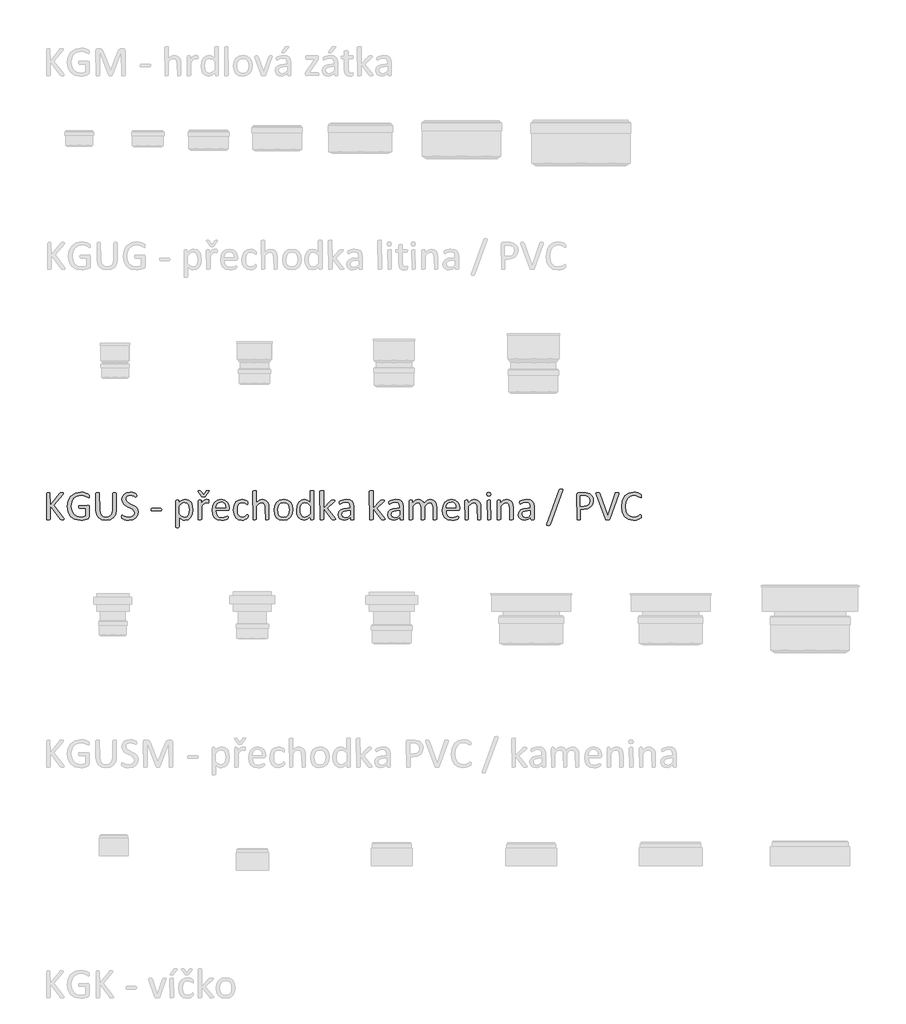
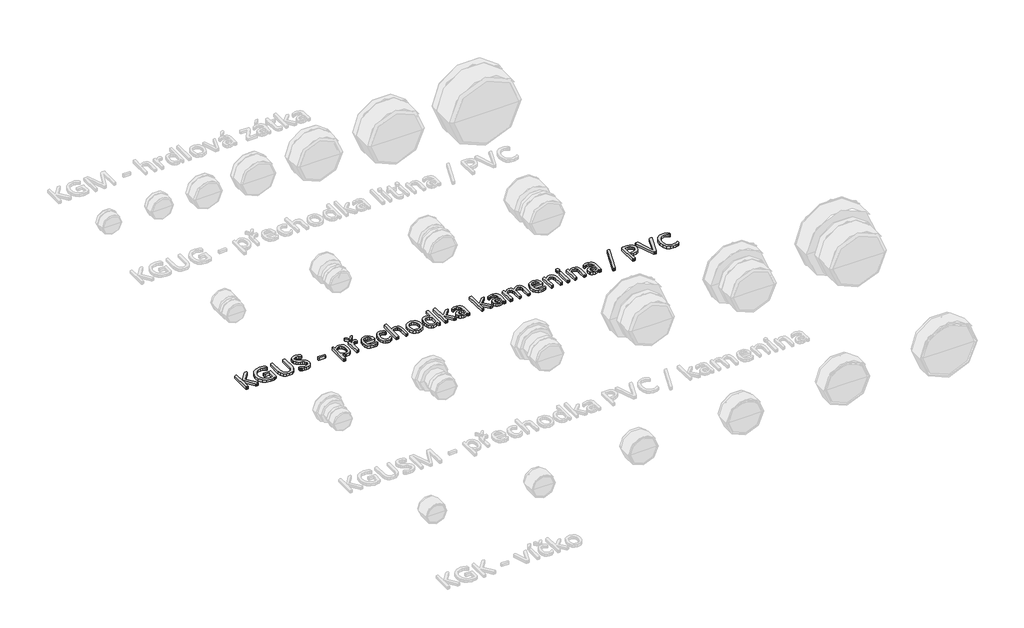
# One storey, part 4 of 11: 1 proxy.
"""IFC4 building model written with IfcOpenShell, lengths in millimetres."""

from ifc_helpers import new_model, si_unit, origin, origin_with_axes, place, context, project, spatial, polyline, outline, extrude, element, save

model = new_model("IFC4")

# Units and contexts
model_context = context("Model", 3, world=origin())
ifc_project = project(units=[si_unit("LENGTHUNIT", "METRE", prefix="MILLI")], contexts=[model_context])

# Site, building, storey
site = spatial("IfcSite", under=ifc_project)
building = spatial("IfcBuilding", under=site)
storey = spatial("IfcBuildingStorey", under=building, Name="Podlaží 1", Elevation=0.0)

# Proxy
placement = place(None, origin())
element("IfcBuildingElementProxy", 1, Name="120mm Arial", ObjectType="120mm Arial", at=placement, inside=storey, context=model_context, shape_type="SweptSolid", body=[
    extrude(outline(polyline([(-20477.3940185, 4443.2228429), (-20478.8234835, 4440.2010624), (-20481.3386182, 4439.6039441), (-20485.4098794, 4439.3687156), (-20490.6934717, 4439.640133), (-20493.7514412, 4440.6534247), (-20495.4342292, 4442.3362127), (-20539.5486061, 4501.9756656), (-20539.5486061, 4442.3362127), (-20541.2494886, 4440.1648734), (-20543.7465288, 4439.6039441), (-20547.6549395, 4439.3687156), (-20551.5271613, 4439.6039441), (-20554.0603905, 4440.1648734), (-20555.3812885, 4441.0876926), (-20555.3812885, 4556.8381721), (-20551.5271613, 4559.5704407), (-20547.6549395, 4559.8056691), (-20543.7465288, 4559.5704407), (-20541.2494886, 4559.0095114), (-20539.5486061, 4503.821304), (-20497.0989227, 4556.8381721), (-20495.7780246, 4558.2314482), (-20493.9866697, 4559.1180784), (-20491.399157, 4559.6247242), (-20487.4364628, 4559.8056691), (-20483.564241, 4559.5704407), (-20481.1938622, 4558.9733224), (-20480.2529486, 4554.4496989), (-20482.5509493, 4551.1203119), (-20522.3226476, 4503.821304), (-20479.4748853, 4447.2217261), (-20477.3940185, 4443.2228429)])), origin_with_axes(), (0.0, 0.0, 1.0), 15.0),
    extrude(outline(polyline([(-20365.8414616, 4544.0272702), (-20366.0224065, 4540.7521667), (-20366.5833359, 4538.381788), (-20367.5242496, 4537.0427954), (-20372.4278575, 4538.454166), (-20379.4123323, 4542.4349547), (-20389.8709499, 4546.4157434), (-20404.3103563, 4548.2251928), (-20422.1696221, 4544.5520105), (-20435.5595478, 4534.3829048), (-20443.9734876, 4518.9483012), (-20446.9047957, 4499.5510034), (-20443.7020702, 4478.814713), (-20434.8176736, 4463.5610544), (-20421.2648974, 4454.1519174), (-20404.0208444, 4450.9491919), (-20392.693691, 4452.27009), (-20382.0541284, 4456.1965953), (-20382.0541284, 4490.3228113), (-20409.0873028, 4490.3228113), (-20411.403398, 4492.0055993), (-20412.1633668, 4497.2349081), (-20411.9824219, 4500.4195391), (-20411.3853036, 4502.5908784), (-20371.4145658, 4504.2193829), (-20369.406077, 4503.857493), (-20367.578533, 4502.7537289), (-20366.293824, 4500.709051), (-20365.8414616, 4497.741554), (-20365.8414616, 4452.1434285), (-20366.6738083, 4447.9636004), (-20370.2022347, 4444.8694419), (-20377.1505205, 4441.9562283), (-20385.9444447, 4439.2782432), (-20395.1183533, 4437.6135497), (-20404.2741673, 4437.0526204), (-20429.1179079, 4441.431488), (-20447.610481, 4453.8985945), (-20459.1366738, 4473.2597033), (-20463.1174625, 4498.4653337), (-20458.8290674, 4524.7023504), (-20446.7238508, 4544.7329555), (-20427.9598603, 4557.5619519), (-20403.7313325, 4562.1217644), (-20390.8842416, 4560.9456223), (-20380.20849, 4558.1952592), (-20372.3554795, 4554.7573053), (-20367.9766119, 4551.7174302), (-20366.3119185, 4548.8585001), (-20365.8414616, 4544.0272702)])), origin_with_axes(), (0.0, 0.0, 1.0), 15.0),
    extrude(outline(polyline([(-20245.4045081, 4483.3021476), (-20248.6072336, 4463.7239048), (-20257.7268586, 4449.157837), (-20272.166265, 4440.1286844), (-20291.5454683, 4437.0526204), (-20309.6037736, 4439.9296449), (-20323.5908176, 4448.4521517), (-20332.5837812, 4462.5658572), (-20335.7322232, 4482.107911), (-20335.7322232, 4556.8381721), (-20334.0313408, 4559.0095114), (-20331.5704896, 4559.5704407), (-20327.5897008, 4559.8056691), (-20323.6993846, 4559.5704407), (-20321.1842499, 4559.0095114), (-20319.5195564, 4484.2068723), (-20317.5110675, 4469.62271), (-20311.7027349, 4459.2545648), (-20302.5469208, 4453.0300588), (-20290.5321767, 4450.9491919), (-20278.3002986, 4452.9938698), (-20269.2530515, 4459.1279033), (-20263.5894748, 4469.2427256), (-20261.6171749, 4483.3745256), (-20261.6171749, 4556.8381721), (-20259.9162924, 4559.0095114), (-20257.4011578, 4559.5704407), (-20253.4746525, 4559.8056691), (-20249.6205252, 4559.5704407), (-20247.159674, 4559.0095114), (-20245.8387759, 4558.1228812), (-20245.4045081, 4483.3021476)])), origin_with_axes(), (0.0, 0.0, 1.0), 15.0),
    extrude(outline(polyline([(-20148.1285072, 4472.9159079), (-20151.2407602, 4457.7165328), (-20159.9080229, 4446.4074739), (-20172.9541532, 4439.4049046), (-20189.0944421, 4437.0526204), (-20200.3130285, 4437.9573451), (-20209.5412205, 4440.1829679), (-20216.3447504, 4442.9152365), (-20220.1626886, 4445.3218042), (-20221.7369096, 4448.1083563), (-20222.2435555, 4452.8672083), (-20222.0626105, 4456.3956347), (-20221.5016812, 4458.6574465), (-20215.5304981, 4458.7660134), (-20209.3602756, 4455.6175714), (-20200.294934, 4452.4329405), (-20188.0449614, 4450.9491919), (-20178.400596, 4452.3605625), (-20170.8913809, 4456.3413512), (-20166.0420564, 4462.6382352), (-20164.341174, 4471.1426475), (-20166.7296472, 4479.9727607), (-20173.0084367, 4486.3963061), (-20181.8928334, 4491.4627645), (-20192.1343171, 4496.167333), (-20202.3215173, 4501.4690198), (-20211.169725, 4508.3087386), (-20217.502798, 4517.5731196), (-20219.9274602, 4530.2754546), (-20217.1590026, 4543.8644197), (-20209.4688426, 4553.8525806), (-20197.7436103, 4560.0047086), (-20183.050881, 4562.1217644), (-20174.9264531, 4561.3437012), (-20167.2362931, 4559.2809288), (-20160.7946531, 4556.4039042), (-20157.0852818, 4553.8344861), (-20155.9272342, 4552.332643), (-20155.1672654, 4549.0213506), (-20155.0767929, 4546.0538535), (-20155.2215489, 4542.9777895), (-20155.6377223, 4540.7340722), (-20160.8670311, 4540.3721824), (-20166.2953794, 4543.5387188), (-20173.8950669, 4546.7595388), (-20183.7384718, 4548.2251928), (-20192.5866795, 4546.9042948), (-20198.8111855, 4543.3939629), (-20202.4843678, 4538.1827486), (-20203.7147934, 4531.7953921), (-20201.3625092, 4523.0738459), (-20195.0837197, 4516.596017), (-20186.163134, 4511.4209916), (-20175.9759338, 4506.6802341), (-20165.770639, 4501.4147363), (-20156.8500534, 4494.6473955), (-20150.5350749, 4485.4553924), (-20148.1285072, 4472.9159079)])), origin_with_axes(), (0.0, 0.0, 1.0), 15.0),
    extrude(outline(polyline([(-20043.9042205, 4484.5687622), (-20044.7546617, 4480.0089496), (-20047.2336074, 4478.742335), (-20086.8243608, 4478.742335), (-20089.3756844, 4480.0451386), (-20090.2261257, 4484.5687622), (-20089.3756844, 4489.0561968), (-20086.8243608, 4490.3228113), (-20047.2336074, 4490.3228113), (-20044.1394489, 4487.2829363), (-20043.9042205, 4484.5687622)])), origin_with_axes(), (0.0, 0.0, 1.0), 15.0),
    extrude(outline(polyline([(-19904.9385049, 4484.6411402), (-19907.2546001, 4464.79148), (-19914.0581299, 4449.8454278), (-19925.1862439, 4440.3820073), (-19940.3675245, 4437.0526204), (-19947.0805819, 4437.7944946), (-19953.124143, 4440.1467789), (-19958.9867591, 4444.1818511), (-19965.1569816, 4449.8997113), (-19965.1569816, 4407.6309728), (-19966.8397696, 4405.369161), (-19969.2825263, 4404.8082317), (-19973.299504, 4404.6272867), (-19977.2441038, 4404.8082317), (-19979.741144, 4405.369161), (-19981.0258531, 4406.3100747), (-19981.0258531, 4524.4852164), (-19977.6421826, 4527.2355796), (-19974.2766067, 4527.3803355), (-19970.8929363, 4527.253674), (-19968.685408, 4526.7832172), (-19967.111187, 4514.1351657), (-19959.9276728, 4520.9748846), (-19952.9612925, 4525.8061145), (-19945.7596838, 4528.7193281), (-19937.9790513, 4529.6964308), (-19922.7796762, 4526.1318154), (-19912.5381924, 4516.3969775), (-19906.7660488, 4502.0299491), (-19904.9385049, 4484.6411402)]), holes=[polyline([(-19921.1511717, 4482.8678797), (-19922.0920854, 4495.1359468), (-19925.3309998, 4505.6669424), (-19931.5012224, 4513.0314016), (-19941.1274933, 4515.7998592), (-19946.8091645, 4514.949418), (-19952.4727412, 4512.2352438), (-19958.4982078, 4507.3497304), (-19965.1569816, 4499.9128933), (-19965.1569816, 4466.365701), (-19953.5584108, 4454.9118862), (-19942.032218, 4450.9491919), (-19932.4421361, 4453.7176495), (-19925.9643071, 4461.0821087), (-19922.3273138, 4471.3778759), (-19921.1511717, 4482.8678797)])]), origin_with_axes(), (0.0, 0.0, 1.0), 15.0),
    extrude(outline(polyline([(-19845.8780757, 4566.392065), (-19844.7200281, 4567.6767741), (-19841.4268302, 4568.9433887), (-19838.5317111, 4569.0700502), (-19834.7499618, 4568.7624438), (-19832.9405124, 4567.8758136), (-19834.2975994, 4564.0759698), (-19849.2436517, 4543.5930023), (-19850.4197938, 4542.4349547), (-19852.0121093, 4541.7654584), (-19854.3282045, 4541.4035685), (-19857.675686, 4541.2769071), (-19860.824128, 4541.4035685), (-19863.0497507, 4541.8016474), (-19864.5877828, 4542.5254272), (-19880.6195046, 4564.0759698), (-19882.0127807, 4566.3015926), (-19880.1128588, 4568.7624438), (-19876.349204, 4569.0700502), (-19873.236951, 4568.9433887), (-19871.3551236, 4568.4910264), (-19869.0390283, 4566.392065), (-19857.458552, 4550.2155872), (-19845.8780757, 4566.392065)])), origin_with_axes(), (0.0, 0.0, 1.0), 15.0),
    extrude(outline(polyline([(-19833.1395518, 4520.4320497), (-19833.2300243, 4517.1388518), (-19833.5919142, 4515.0037015), (-19837.138435, 4513.7913704), (-19839.4726248, 4514.6237171), (-19842.3858383, 4515.4198748), (-19845.8780757, 4515.7998592), (-19850.2931323, 4514.804662), (-19854.8348504, 4511.5476531), (-19859.8108363, 4505.540281), (-19865.5648854, 4496.3663724), (-19865.5648854, 4442.1914567), (-19869.6904301, 4439.5496606), (-19873.7074078, 4439.3687156), (-19877.6520076, 4439.5496606), (-19880.1490478, 4440.0924954), (-19881.7775523, 4524.5575944), (-19878.0500865, 4527.2355796), (-19874.3949986, 4527.3803355), (-19870.8122888, 4527.2355796), (-19868.6047605, 4526.6927447), (-19867.1210119, 4512.5428502), (-19860.8603169, 4521.1196405), (-19855.3053072, 4526.3489493), (-19850.1302819, 4528.972651), (-19844.937162, 4529.6964308), (-19842.2953659, 4529.5697693), (-19839.1831129, 4529.081218), (-19836.2518048, 4528.2669657), (-19834.4061664, 4527.3803355), (-19833.1757408, 4523.6890587), (-19833.1395518, 4520.4320497)])), origin_with_axes(), (0.0, 0.0, 1.0), 15.0),
    extrude(outline(polyline([(-19742.8118367, 4487.6810152), (-19744.6031916, 4482.5783678), (-19748.7106418, 4481.0584303), (-19803.0303134, 4481.0584303), (-19801.6732264, 4467.6685046), (-19797.1676973, 4457.4632098), (-19788.9527969, 4450.9130029), (-19776.5761629, 4448.6330967), (-19766.2984902, 4449.7006718), (-19758.4816687, 4452.1072396), (-19753.0714149, 4454.5138073), (-19749.8686894, 4455.5813824), (-19747.5706886, 4452.6862634), (-19747.4440272, 4450.0444672), (-19747.5344997, 4448.1083563), (-19751.9857452, 4442.7161971), (-19758.3369127, 4440.2191569), (-19767.3841598, 4438.0297231), (-19778.3494233, 4437.0526204), (-19796.0277442, 4439.9477394), (-19808.7843626, 4448.5607187), (-19816.6011841, 4462.9096526), (-19819.2429802, 4482.9402577), (-19816.4745226, 4502.4823115), (-19808.4948507, 4517.1750408), (-19795.9010827, 4526.4575163), (-19779.362715, 4529.6964308), (-19762.7157803, 4526.5660833), (-19751.4067214, 4518.134049), (-19744.8927035, 4505.7031314), (-19742.8118367, 4490.4675673), (-19742.8118367, 4487.6810152)]), holes=[polyline([(-19759.0245035, 4492.6389066), (-19760.196122, 4503.2648983), (-19764.2176233, 4511.3305191), (-19770.9894878, 4516.4195956), (-19780.4121956, 4518.1159545), (-19790.0565611, 4516.0169931), (-19796.9867524, 4510.4257944), (-19801.3113365, 4502.3013665), (-19803.0303134, 4492.6389066), (-19759.0245035, 4492.6389066)])]), origin_with_axes(), (0.0, 0.0, 1.0), 15.0),
    extrude(outline(polyline([(-19659.4324073, 4456.0156503), (-19659.5228798, 4453.4824211), (-19659.8485807, 4451.6729717), (-19661.838975, 4448.0359784), (-19665.7292913, 4444.507552), (-19671.8995138, 4440.7619917), (-19679.3363509, 4438.0840065), (-19687.6598183, 4437.0526204), (-19703.3658393, 4440.0563064), (-19714.8196541, 4448.8321361), (-19721.8584124, 4462.9820306), (-19724.2830746, 4482.3250449), (-19721.3155775, 4503.7670206), (-19713.1911496, 4518.4416554), (-19701.049744, 4526.9279732), (-19685.9227468, 4529.6964308), (-19678.2868703, 4528.8821785), (-19671.4833405, 4526.7470282), (-19665.9464252, 4523.7071532), (-19662.4360933, 4520.7577506), (-19660.9342503, 4518.8216397), (-19660.2466595, 4517.2836077), (-19659.8847697, 4515.3836858), (-19659.7942972, 4512.7237952), (-19660.6085494, 4507.9106597), (-19662.5808493, 4506.5354782), (-19665.7111968, 4507.9830377), (-19670.1805369, 4511.1676687), (-19676.7488383, 4514.3522997), (-19685.8141799, 4515.7998592), (-19695.3364075, 4513.7008979), (-19702.3344531, 4507.4040139), (-19706.6364191, 4497.1082467), (-19708.0704078, 4483.0126357), (-19706.5866592, 4469.0074972), (-19702.2077916, 4458.9469584), (-19695.0966554, 4452.9214918), (-19685.45229, 4450.9491919), (-19676.4231374, 4452.7767358), (-19669.6919855, 4456.7937136), (-19664.8969446, 4460.7564078), (-19661.8570695, 4462.5296682), (-19659.5590688, 4458.9650529), (-19659.4324073, 4456.0156503)])), origin_with_axes(), (0.0, 0.0, 1.0), 15.0),
    extrude(outline(polyline([(-19566.7885969, 4442.2276457), (-19570.9141416, 4439.5496606), (-19574.8587413, 4439.3687156), (-19578.875719, 4439.5496606), (-19581.3184758, 4440.0924954), (-19583.0012637, 4490.5761343), (-19584.0688389, 4501.9394766), (-19587.1629974, 4509.3763138), (-19592.4284952, 4514.1532602), (-19599.9015213, 4515.7998592), (-19610.8848793, 4511.764787), (-19622.3748831, 4499.9128933), (-19622.3748831, 4442.2276457), (-19626.5004278, 4439.5496606), (-19630.5174055, 4439.3687156), (-19634.4620053, 4439.5496606), (-19636.9590455, 4440.1105899), (-19638.58755, 4566.1025531), (-19634.4620053, 4568.8891052), (-19630.5174055, 4569.0700502), (-19626.5004278, 4568.8891052), (-19624.0576711, 4568.3281759), (-19622.772962, 4567.3872622), (-19622.3748831, 4516.0169931), (-19609.3468473, 4526.3308548), (-19596.1378665, 4529.6964308), (-19582.3136729, 4526.8736897), (-19573.2483313, 4519.3282856), (-19568.2904399, 4508.2725496), (-19566.7885969, 4492.9646075), (-19566.7885969, 4442.2276457)])), origin_with_axes(), (0.0, 0.0, 1.0), 15.0),
    extrude(outline(polyline([(-19460.2482149, 4484.2792503), (-19462.9262001, 4465.2981258), (-19470.942061, 4450.3520736), (-19484.2957978, 4440.5629522), (-19502.8788433, 4437.0526204), (-19520.7923926, 4440.1467789), (-19533.5309165, 4449.1397425), (-19541.1306041, 4463.4705819), (-19543.6276443, 4482.5783678), (-19540.9858481, 4501.5594923), (-19533.0242707, 4516.48745), (-19519.7248174, 4526.2222879), (-19501.1055829, 4529.6964308), (-19483.1739391, 4526.6022723), (-19470.4354152, 4517.6093086), (-19462.7995386, 4503.2784692), (-19460.2482149, 4484.2792503)]), holes=[polyline([(-19476.4608818, 4483.1935806), (-19477.7094019, 4495.7692541), (-19481.816852, 4506.1554938), (-19489.5432011, 4513.2123465), (-19501.7207957, 4515.7998592), (-19513.2831775, 4513.4294805), (-19521.244755, 4506.7345176), (-19525.89504, 4496.4930339), (-19527.4149775, 4483.5554705), (-19526.1664574, 4470.9074191), (-19522.0228182, 4460.5573684), (-19514.2421857, 4453.5367046), (-19502.0826856, 4450.9491919), (-19490.5564928, 4453.3195707), (-19482.5406318, 4459.96025), (-19477.9265358, 4470.1655448), (-19476.4608818, 4483.1935806)])]), origin_with_axes(), (0.0, 0.0, 1.0), 15.0),
    extrude(outline(polyline([(-19367.9301054, 4442.2638347), (-19371.3137759, 4439.5496606), (-19374.6250683, 4439.3687156), (-19378.0630222, 4439.5496606), (-19380.3067395, 4440.0201174), (-19381.971433, 4452.3243735), (-19395.4156422, 4441.0876926), (-19410.6693008, 4437.0526204), (-19426.0858099, 4440.6534247), (-19436.4177661, 4450.3882626), (-19442.2080042, 4464.827669), (-19444.0355481, 4482.2888559), (-19441.7556418, 4501.9213821), (-19435.02449, 4516.8674344), (-19423.9868485, 4526.3670438), (-19408.7512844, 4529.6964308), (-19395.5965871, 4526.4575163), (-19383.8170714, 4516.9579068), (-19383.8170714, 4566.0663641), (-19382.1523779, 4568.2738924), (-19379.6553377, 4568.8348218), (-19375.8193049, 4569.0700502), (-19371.8023272, 4568.8348218), (-19369.3595705, 4568.2738924), (-19368.0386724, 4567.3510732), (-19367.9301054, 4442.2638347)]), holes=[polyline([(-19383.8170714, 4500.4557281), (-19395.4337366, 4511.873354), (-19407.1227799, 4515.7998592), (-19416.7128619, 4513.0494961), (-19423.1183128, 4505.7936039), (-19426.7010227, 4495.5883092), (-19427.8228813, 4484.0259274), (-19426.8819676, 4471.7940493), (-19423.6068641, 4461.1906757), (-19417.4185471, 4453.7538385), (-19407.7379927, 4450.9491919), (-19402.0563215, 4451.7634442), (-19396.4470283, 4454.4595238), (-19390.4577507, 4459.3450372), (-19383.8170714, 4466.7637799), (-19383.8170714, 4500.4557281)])]), origin_with_axes(), (0.0, 0.0, 1.0), 15.0),
    extrude(outline(polyline([(-19270.3284036, 4442.3000237), (-19274.3996648, 4439.5496606), (-19278.398548, 4439.3687156), (-19282.5240927, 4439.5134716), (-19285.2744558, 4439.9658339), (-19287.0839053, 4440.8705586), (-19288.3505199, 4442.3000237), (-19323.5985946, 4487.8619601), (-19323.5985946, 4442.1914567), (-19327.7241393, 4439.5496606), (-19331.741117, 4439.3687156), (-19335.6857167, 4439.5496606), (-19338.1827569, 4440.1105899), (-19339.8112614, 4566.1025531), (-19335.6857167, 4568.8891052), (-19331.741117, 4569.0700502), (-19327.7241393, 4568.8891052), (-19325.2813826, 4568.3281759), (-19323.9966735, 4567.3872622), (-19323.5985946, 4489.9609215), (-19291.3903949, 4524.1957045), (-19289.7799849, 4525.6975475), (-19287.7534016, 4526.6927447), (-19284.9668494, 4527.2355796), (-19281.0765332, 4527.3803355), (-19277.0957445, 4527.2355796), (-19274.5082318, 4526.7832172), (-19273.0787667, 4525.968965), (-19273.2778062, 4522.4405386), (-19275.394862, 4519.8892149), (-19307.3859278, 4490.0694884), (-19272.6083099, 4446.6065133), (-19270.853144, 4444.0913786), (-19270.3284036, 4442.3000237)])), origin_with_axes(), (0.0, 0.0, 1.0), 15.0),
    extrude(outline(polyline([(-19189.2650695, 4442.1552677), (-19190.0612273, 4440.4724798), (-19192.2325666, 4439.640133), (-19196.2857333, 4439.3687156), (-19200.3931835, 4439.640133), (-19202.6188063, 4440.4724798), (-19203.306397, 4442.1552677), (-19203.306397, 4450.4787351), (-19215.5020861, 4440.8524642), (-19229.7605476, 4437.0526204), (-19241.7210083, 4438.7715973), (-19250.8225389, 4443.7475832), (-19256.6670605, 4451.7453497), (-19258.7479273, 4462.5296682), (-19255.8709027, 4474.7977353), (-19247.6198134, 4483.4469035), (-19234.4651161, 4488.6038344), (-19216.9496457, 4490.3228113), (-19205.4777363, 4490.3228113), (-19205.4777363, 4497.2349081), (-19206.491028, 4506.2821552), (-19209.748037, 4512.8323622), (-19215.5563696, 4516.7769619), (-19224.3321993, 4518.1159545), (-19234.3746436, 4516.6683949), (-19242.1552761, 4513.4837639), (-19247.7464748, 4510.299133), (-19251.0758618, 4508.8515734), (-19253.9347919, 4512.3799998), (-19254.1157368, 4515.0398905), (-19253.7900359, 4518.8397342), (-19252.1977204, 4521.4996249), (-19247.8550418, 4524.213799), (-19240.7620001, 4526.8917842), (-19231.9861704, 4528.900273), (-19222.3779939, 4529.6964308), (-19206.9976739, 4527.6517529), (-19196.7380956, 4521.6805698), (-19191.03833, 4511.9276374), (-19189.2650695, 4498.3205778), (-19189.2650695, 4442.1552677)]), holes=[polyline([(-19205.4777363, 4478.742335), (-19218.3610162, 4478.742335), (-19229.1091458, 4477.6747599), (-19236.6907389, 4474.5263179), (-19241.12389, 4469.5322375), (-19242.5352605, 4462.8191801), (-19238.4820938, 4452.4691294), (-19227.1187514, 4448.6330967), (-19216.1172989, 4451.6910662), (-19205.4777363, 4461.0459197), (-19205.4777363, 4478.742335)])]), origin_with_axes(), (0.0, 0.0, 1.0), 15.0),
    extrude(outline(polyline([(-19050.2993539, 4442.3000237), (-19054.3706151, 4439.5496606), (-19058.3694983, 4439.3687156), (-19062.495043, 4439.5134716), (-19065.2454061, 4439.9658339), (-19067.0548556, 4440.8705586), (-19068.3214702, 4442.3000237), (-19103.5695449, 4487.8619601), (-19103.5695449, 4442.1914567), (-19107.6950896, 4439.5496606), (-19111.7120673, 4439.3687156), (-19115.656667, 4439.5496606), (-19118.1537072, 4440.1105899), (-19119.7822117, 4566.1025531), (-19115.656667, 4568.8891052), (-19111.7120673, 4569.0700502), (-19107.6950896, 4568.8891052), (-19105.2523329, 4568.3281759), (-19103.9676238, 4567.3872622), (-19103.5695449, 4489.9609215), (-19071.3613452, 4524.1957045), (-19069.7509352, 4525.6975475), (-19067.7243519, 4526.6927447), (-19064.9377997, 4527.2355796), (-19061.0474835, 4527.3803355), (-19057.0666948, 4527.2355796), (-19054.4791821, 4526.7832172), (-19053.049717, 4525.968965), (-19053.2487565, 4522.4405386), (-19055.3658123, 4519.8892149), (-19087.3568781, 4490.0694884), (-19052.5792602, 4446.6065133), (-19050.8240943, 4444.0913786), (-19050.2993539, 4442.3000237)])), origin_with_axes(), (0.0, 0.0, 1.0), 15.0),
    extrude(outline(polyline([(-18969.2360198, 4442.1552677), (-18970.0321776, 4440.4724798), (-18972.2035169, 4439.640133), (-18976.2566836, 4439.3687156), (-18980.3641338, 4439.640133), (-18982.5897566, 4440.4724798), (-18983.2773473, 4442.1552677), (-18983.2773473, 4450.4787351), (-18995.4730364, 4440.8524642), (-19009.7314979, 4437.0526204), (-19021.6919586, 4438.7715973), (-19030.7934892, 4443.7475832), (-19036.6380108, 4451.7453497), (-19038.7188776, 4462.5296682), (-19035.841853, 4474.7977353), (-19027.5907637, 4483.4469035), (-19014.4360664, 4488.6038344), (-18996.920596, 4490.3228113), (-18985.4486866, 4490.3228113), (-18985.4486866, 4497.2349081), (-18986.4619783, 4506.2821552), (-18989.7189873, 4512.8323622), (-18995.5273199, 4516.7769619), (-19004.3031496, 4518.1159545), (-19014.3455939, 4516.6683949), (-19022.1262264, 4513.4837639), (-19027.7174251, 4510.299133), (-19031.0468121, 4508.8515734), (-19033.9057422, 4512.3799998), (-19034.0866871, 4515.0398905), (-19033.7609862, 4518.8397342), (-19032.1686707, 4521.4996249), (-19027.8259921, 4524.213799), (-19020.7329504, 4526.8917842), (-19011.9571207, 4528.900273), (-19002.3489442, 4529.6964308), (-18986.9686242, 4527.6517529), (-18976.7090459, 4521.6805698), (-18971.0092803, 4511.9276374), (-18969.2360198, 4498.3205778), (-18969.2360198, 4442.1552677)]), holes=[polyline([(-18985.4486866, 4478.742335), (-18998.3319665, 4478.742335), (-19009.0800961, 4477.6747599), (-19016.6616892, 4474.5263179), (-19021.0948403, 4469.5322375), (-19022.5062108, 4462.8191801), (-19018.4530441, 4452.4691294), (-19007.0897017, 4448.6330967), (-18996.0882492, 4451.6910662), (-18985.4486866, 4461.0459197), (-18985.4486866, 4478.742335)])]), origin_with_axes(), (0.0, 0.0, 1.0), 15.0),
    extrude(outline(polyline([(-18821.0059232, 4442.2276457), (-18825.1133734, 4439.5496606), (-18829.0036896, 4439.3687156), (-18833.0206673, 4439.5496606), (-18835.499613, 4440.0924954), (-18837.21859, 4492.3855837), (-18838.1052202, 4501.9394766), (-18840.9279613, 4509.3763138), (-18845.8858527, 4514.1532602), (-18852.9608, 4515.7998592), (-18863.0756222, 4511.764787), (-18874.2761142, 4499.9128933), (-18874.2761142, 4442.2276457), (-18878.4921313, 4439.5496606), (-18882.4186366, 4439.3687156), (-18886.3089528, 4439.5496606), (-18888.8602765, 4440.0924954), (-18890.488781, 4492.3855837), (-18891.4658837, 4501.9394766), (-18894.3790972, 4509.3763138), (-18899.2646107, 4514.1532602), (-18906.2671799, 4515.7998592), (-18916.4181912, 4511.764787), (-18927.5463051, 4499.9128933), (-18927.5463051, 4442.2276457), (-18931.6718498, 4439.5496606), (-18935.6888275, 4439.3687156), (-18939.6334273, 4439.5496606), (-18942.1304675, 4440.0924954), (-18943.758972, 4524.5575944), (-18940.0315061, 4527.2355796), (-18936.3764183, 4527.3803355), (-18932.7937085, 4527.2355796), (-18930.5861802, 4526.6927447), (-18929.1024316, 4513.6647089), (-18915.6944114, 4525.8423035), (-18902.5759031, 4529.6964308), (-18893.456278, 4528.4298162), (-18886.3270473, 4524.8832953), (-18881.0615495, 4519.4368525), (-18877.4245562, 4512.3619053), (-18869.6077347, 4520.4501442), (-18862.4785039, 4525.8061145), (-18855.8016356, 4528.7736116), (-18849.2695231, 4529.6964308), (-18835.9157864, 4526.8736897), (-18827.1761457, 4519.3282856), (-18822.4172937, 4508.2725496), (-18821.0059232, 4494.8826239), (-18821.0059232, 4442.2276457)])), origin_with_axes(), (0.0, 0.0, 1.0), 15.0),
    extrude(outline(polyline([(-18719.0977317, 4487.6810152), (-18720.8890867, 4482.5783678), (-18724.9965369, 4481.0584303), (-18779.3162085, 4481.0584303), (-18777.9591214, 4467.6685046), (-18773.4535924, 4457.4632098), (-18765.238692, 4450.9130029), (-18752.862058, 4448.6330967), (-18742.5843852, 4449.7006718), (-18734.7675637, 4452.1072396), (-18729.35731, 4454.5138073), (-18726.1545845, 4455.5813824), (-18723.8565837, 4452.6862634), (-18723.7299223, 4450.0444672), (-18723.8203947, 4448.1083563), (-18728.2716403, 4442.7161971), (-18734.6228078, 4440.2191569), (-18743.6700549, 4438.0297231), (-18754.6353184, 4437.0526204), (-18772.3136392, 4439.9477394), (-18785.0702577, 4448.5607187), (-18792.8870792, 4462.9096526), (-18795.5288753, 4482.9402577), (-18792.7604177, 4502.4823115), (-18784.7807458, 4517.1750408), (-18772.1869778, 4526.4575163), (-18755.6486101, 4529.6964308), (-18739.0016754, 4526.5660833), (-18727.6926165, 4518.134049), (-18721.1785986, 4505.7031314), (-18719.0977317, 4490.4675673), (-18719.0977317, 4487.6810152)]), holes=[polyline([(-18735.3103986, 4492.6389066), (-18736.4820171, 4503.2648983), (-18740.5035184, 4511.3305191), (-18747.2753829, 4516.4195956), (-18756.6980907, 4518.1159545), (-18766.3424561, 4516.0169931), (-18773.2726474, 4510.4257944), (-18777.5972315, 4502.3013665), (-18779.3162085, 4492.6389066), (-18735.3103986, 4492.6389066)])]), origin_with_axes(), (0.0, 0.0, 1.0), 15.0),
    extrude(outline(polyline([(-18624.1378261, 4442.2276457), (-18628.2633708, 4439.5496606), (-18632.2079705, 4439.3687156), (-18636.2249482, 4439.5496606), (-18638.6677049, 4440.0924954), (-18640.3504929, 4490.5761343), (-18641.4180681, 4501.9394766), (-18644.5122266, 4509.3763138), (-18649.7777244, 4514.1532602), (-18657.2507505, 4515.7998592), (-18668.2341085, 4511.764787), (-18679.7241123, 4499.9128933), (-18679.7241123, 4442.2276457), (-18683.849657, 4439.5496606), (-18687.8666347, 4439.3687156), (-18691.8112345, 4439.5496606), (-18694.3082747, 4440.0924954), (-18695.9367791, 4524.5575944), (-18692.2093133, 4527.2355796), (-18688.5542255, 4527.3803355), (-18684.9715156, 4527.2355796), (-18682.7639873, 4526.6927447), (-18681.2802388, 4513.6647089), (-18667.4379507, 4525.8423035), (-18653.5232847, 4529.6964308), (-18639.6990911, 4526.8736897), (-18630.615655, 4519.3282856), (-18625.6396691, 4508.2725496), (-18624.1378261, 4493.0369855), (-18624.1378261, 4442.2276457)])), origin_with_axes(), (0.0, 0.0, 1.0), 15.0),
    extrude(outline(polyline([(-18580.1320161, 4552.9659503), (-18582.1224105, 4545.5653022), (-18589.5049641, 4543.5930023), (-18596.7065728, 4545.5110187), (-18598.6607782, 4552.7488164), (-18596.6703839, 4560.1494645), (-18589.2878302, 4562.1217644), (-18582.0862215, 4560.203748), (-18580.1320161, 4552.9659503)])), origin_with_axes(), (0.0, 0.0, 1.0), 15.0),
    extrude(outline(polyline([(-18580.1320161, 4442.1914567), (-18584.2575608, 4439.5496606), (-18588.2745385, 4439.3687156), (-18592.2191383, 4439.5496606), (-18594.7161785, 4440.0924954), (-18596.344683, 4524.5575944), (-18592.2191383, 4527.1993906), (-18588.2745385, 4527.3803355), (-18584.2575608, 4527.1993906), (-18581.8148041, 4526.6565557), (-18580.1320161, 4442.1914567)])), origin_with_axes(), (0.0, 0.0, 1.0), 15.0),
    extrude(outline(polyline([(-18480.53992, 4442.2276457), (-18484.6654646, 4439.5496606), (-18488.6100644, 4439.3687156), (-18492.6270421, 4439.5496606), (-18495.0697988, 4440.0924954), (-18496.7525868, 4490.5761343), (-18497.8201619, 4501.9394766), (-18500.9143204, 4509.3763138), (-18506.1798183, 4514.1532602), (-18513.6528444, 4515.7998592), (-18524.6362024, 4511.764787), (-18536.1262062, 4499.9128933), (-18536.1262062, 4442.2276457), (-18540.2517509, 4439.5496606), (-18544.2687286, 4439.3687156), (-18548.2133283, 4439.5496606), (-18550.7103685, 4440.0924954), (-18552.338873, 4524.5575944), (-18548.6114072, 4527.2355796), (-18544.9563194, 4527.3803355), (-18541.3736095, 4527.2355796), (-18539.1660812, 4526.6927447), (-18537.6823327, 4513.6647089), (-18523.8400446, 4525.8423035), (-18509.9253786, 4529.6964308), (-18496.101185, 4526.8736897), (-18487.0177489, 4519.3282856), (-18482.041763, 4508.2725496), (-18480.53992, 4493.0369855), (-18480.53992, 4442.2276457)])), origin_with_axes(), (0.0, 0.0, 1.0), 15.0),
    extrude(outline(polyline([(-18387.8961096, 4442.1552677), (-18388.6922673, 4440.4724798), (-18390.8636066, 4439.640133), (-18394.9167733, 4439.3687156), (-18399.0242235, 4439.640133), (-18401.2498463, 4440.4724798), (-18401.9374371, 4442.1552677), (-18401.9374371, 4450.4787351), (-18414.1331262, 4440.8524642), (-18428.3915876, 4437.0526204), (-18440.3520483, 4438.7715973), (-18449.4535789, 4443.7475832), (-18455.2981005, 4451.7453497), (-18457.3789674, 4462.5296682), (-18454.5019428, 4474.7977353), (-18446.2508534, 4483.4469035), (-18433.0961561, 4488.6038344), (-18415.5806857, 4490.3228113), (-18404.1087764, 4490.3228113), (-18404.1087764, 4497.2349081), (-18405.1220681, 4506.2821552), (-18408.379077, 4512.8323622), (-18414.1874097, 4516.7769619), (-18422.9632394, 4518.1159545), (-18433.0056836, 4516.6683949), (-18440.7863162, 4513.4837639), (-18446.3775149, 4510.299133), (-18449.7069018, 4508.8515734), (-18452.5658319, 4512.3799998), (-18452.7467768, 4515.0398905), (-18452.4210759, 4518.8397342), (-18450.8287604, 4521.4996249), (-18446.4860818, 4524.213799), (-18439.3930401, 4526.8917842), (-18430.6172104, 4528.900273), (-18421.009034, 4529.6964308), (-18405.6287139, 4527.6517529), (-18395.3691357, 4521.6805698), (-18389.66937, 4511.9276374), (-18387.8961096, 4498.3205778), (-18387.8961096, 4442.1552677)]), holes=[polyline([(-18404.1087764, 4478.742335), (-18416.9920563, 4478.742335), (-18427.7401858, 4477.6747599), (-18435.3217789, 4474.5263179), (-18439.75493, 4469.5322375), (-18441.1663005, 4462.8191801), (-18437.1131338, 4452.4691294), (-18425.7497915, 4448.6330967), (-18414.748339, 4451.6910662), (-18404.1087764, 4461.0459197), (-18404.1087764, 4478.742335)])]), origin_with_axes(), (0.0, 0.0, 1.0), 15.0),
    extrude(outline(polyline([(-18316.7123693, 4417.5829446), (-18317.7075665, 4415.7011172), (-18319.227504, 4414.633542), (-18321.5074103, 4414.0726127), (-18324.7825137, 4413.8916678), (-18328.636641, 4414.2173687), (-18331.0070197, 4415.1401879), (-18332.0203114, 4416.6239364), (-18331.6584215, 4418.7048032), (-18275.5654894, 4572.3270591), (-18274.5702923, 4574.2088865), (-18273.0865437, 4575.3126507), (-18270.824732, 4575.87358), (-18267.495345, 4576.018336), (-18263.6955012, 4575.6926351), (-18261.379406, 4574.8060049), (-18260.3480198, 4573.3222563), (-18260.6194372, 4571.2052005), (-18316.7123693, 4417.5829446)])), origin_with_axes(), (0.0, 0.0, 1.0), 15.0),
    extrude(outline(polyline([(-18123.8612499, 4524.7747283), (-18126.828747, 4508.5982505), (-18135.3331593, 4496.3120889), (-18148.9040299, 4488.4590784), (-18168.0841938, 4485.6906208), (-18181.7636314, 4485.6906208), (-18181.7636314, 4442.3362127), (-18183.5007029, 4440.1648734), (-18185.9615541, 4439.6039441), (-18189.8699648, 4439.3687156), (-18193.7783756, 4439.6039441), (-18196.2754158, 4440.1648734), (-18197.9762982, 4552.9659503), (-18196.0220929, 4558.2314482), (-18191.6432253, 4559.8056691), (-18165.8042875, 4559.8056691), (-18158.3131669, 4559.4799683), (-18149.8268491, 4558.0866922), (-18139.8386883, 4554.123998), (-18131.2257091, 4546.9766727), (-18125.7792663, 4537.1332679), (-18123.8612499, 4524.7747283)]), holes=[polyline([(-18140.0739167, 4523.5081137), (-18142.8604688, 4535.2876295), (-18149.7544711, 4542.3263877), (-18158.2407889, 4545.2757903), (-18166.7813902, 4545.9090976), (-18181.7636314, 4545.9090976), (-18181.7636314, 4499.5871924), (-18167.1432801, 4499.5871924), (-18154.9294965, 4501.3785473), (-18146.7688796, 4506.3364387), (-18141.7747992, 4513.9180318), (-18140.0739167, 4523.5081137)])]), origin_with_axes(), (0.0, 0.0, 1.0), 15.0),
    extrude(outline(polyline([(-18051.59184, 4442.6981026), (-18052.6051317, 4441.0334091), (-18054.4145811, 4440.0201174), (-18057.3820782, 4439.5134716), (-18061.7609458, 4439.3687156), (-18065.3436556, 4439.4229991), (-18067.9854518, 4439.6582275), (-18069.8853737, 4440.0563064), (-18111.9550727, 4553.6173521), (-18112.733136, 4556.8924556), (-18111.9550727, 4558.7923775), (-18109.2589931, 4559.6247242), (-18104.2468182, 4559.8056691), (-18100.1212735, 4559.6609132), (-18097.7689893, 4559.1542674), (-18095.7062169, 4556.6572272), (-18061.3266779, 4456.2327842), (-18027.8518636, 4556.4762822), (-18027.2004618, 4558.1409757), (-18025.9157527, 4559.1542674), (-18023.3101455, 4559.6609132), (-18018.8408055, 4559.8056691), (-18014.3171819, 4559.5704407), (-18012.0372756, 4558.701905), (-18011.5668188, 4556.8200776), (-18012.4715435, 4553.5449741), (-18051.59184, 4442.6981026)])), origin_with_axes(), (0.0, 0.0, 1.0), 15.0),
    extrude(outline(polyline([(-17910.780486, 4455.4004375), (-17910.8709585, 4452.7586414), (-17911.1966594, 4450.7863415), (-17911.8118722, 4449.2844985), (-17913.1327702, 4447.728372), (-17917.0592755, 4444.9418198), (-17924.4961126, 4441.286732), (-17934.7195018, 4438.283046), (-17947.3313643, 4437.0526204), (-17968.6466785, 4441.0153146), (-17984.8774398, 4452.7043579), (-17995.1913015, 4471.7940493), (-17998.7921059, 4497.9948769), (-17994.8836951, 4525.0461458), (-17983.9003371, 4545.1853178), (-17966.981985, 4557.7790858), (-17945.160025, 4562.1217644), (-17934.9185413, 4561.1265672), (-17925.6722547, 4558.6114325), (-17918.1268506, 4555.1011007), (-17913.5670381, 4551.8259972), (-17911.9204391, 4549.9079808), (-17911.3052263, 4548.4061378), (-17910.9252419, 4546.3614599), (-17910.780486, 4543.5568133), (-17910.9795254, 4540.4626548), (-17911.5585492, 4538.3275045), (-17917.4935433, 4538.454166), (-17923.6999549, 4542.4349547), (-17932.9100524, 4546.4157434), (-17945.9199938, 4548.2251928), (-17960.938424, 4544.9500894), (-17972.5008058, 4535.305724), (-17979.9376429, 4519.7806479), (-17982.5794391, 4498.8272236), (-17980.0462099, 4478.1633112), (-17972.8084122, 4463.1629755), (-17961.2279359, 4454.0433504), (-17945.6666708, 4450.9491919), (-17932.8376744, 4452.7405469), (-17923.5009154, 4456.7394301), (-17917.1678425, 4460.7383133), (-17913.2775262, 4462.5296682), (-17910.9252419, 4458.9469584), (-17910.780486, 4455.4004375)])), origin_with_axes(), (0.0, 0.0, 1.0), 15.0),
])

save(model, "model.ifc")
